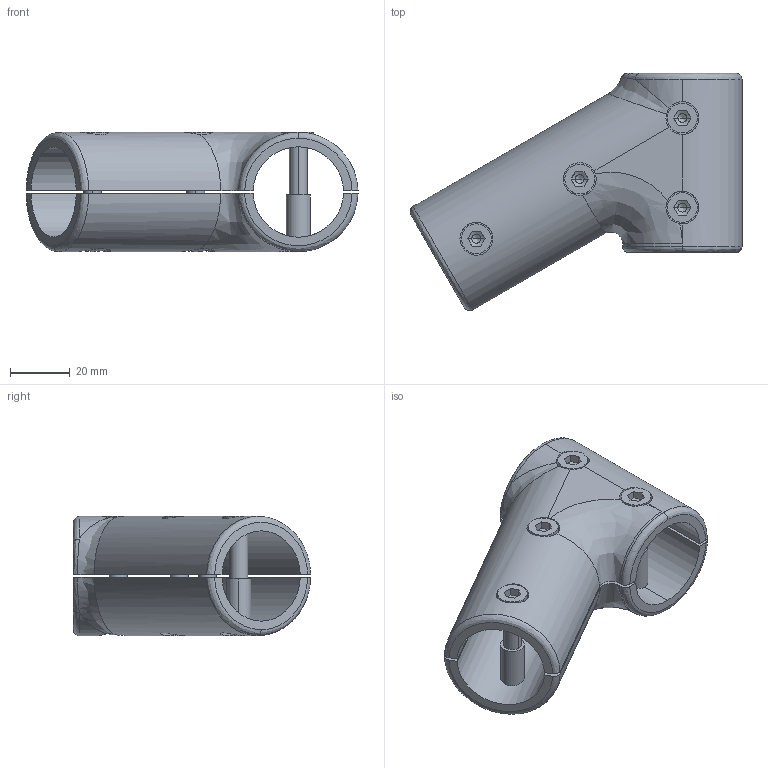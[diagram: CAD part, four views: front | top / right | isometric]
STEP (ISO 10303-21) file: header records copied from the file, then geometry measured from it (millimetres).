
FILE_DESCRIPTION (( 'STEP AP214' ), '1' );
FILE_NAME ('31000410009.STEP', '2024-09-02T09:44:52', ( '' ), ( '' ), 'SwSTEP 2.0', 'SolidWorks 2016', '' );
FILE_SCHEMA (( 'AUTOMOTIVE_DESIGN' ));
Length unit declared in the file: millimetre
Products named in the file (5): DIN 6912  (Regelgewinde) M6 x 25_5; 635179_H³lsenmutter_6; 1890a Schale 2; 1890a Schale 1; 31000410009
Assembly tree (10 placements, depth 2):
  31000410009
    1890a Schale 1
    1890a Schale 2
    635179_H³lsenmutter_6  x4
    DIN 6912  (Regelgewinde) M6 x 25_5  x4
Bounding box: 111.27 x 79.53 x 40 mm (x, y, z)
Volume: 83888.4 mm3; surface area: 39372.2 mm2
Topology: 10 solids, 10 shells, 230 faces, 571 edges, 361 vertices
Faces by surface type: cylinder 91, plane 68, cone 40, bspline 23, sphere 8
Entity records: 7682 total; most frequent: CARTESIAN_POINT 3311, ORIENTED_EDGE 630, DIRECTION 555, EDGE_CURVE 315, AXIS2_PLACEMENT_3D 224, VERTEX_POINT 208, EDGE_LOOP 139, UNCERTAINTY_MEASURE_WITH_UNIT 132
